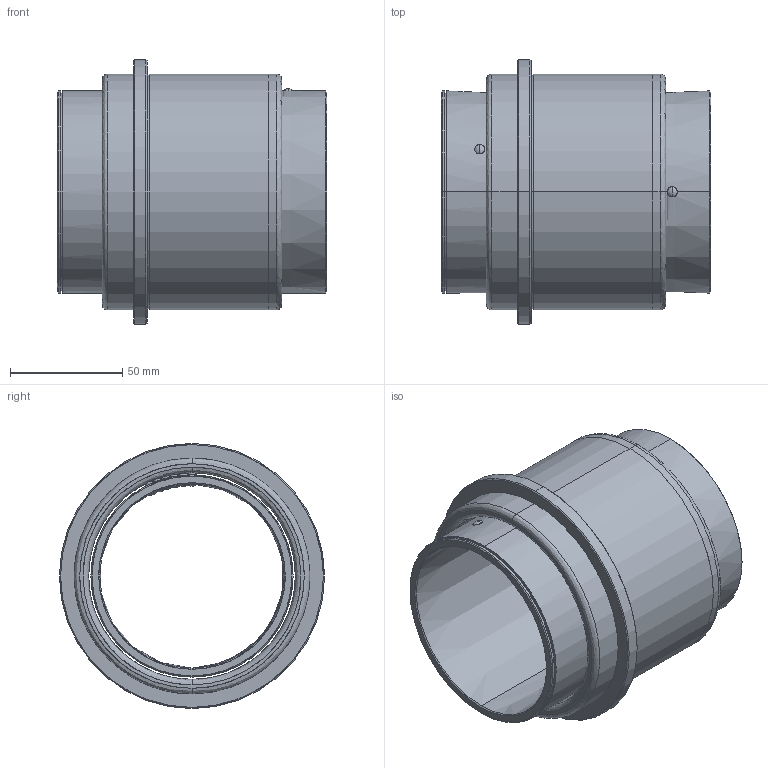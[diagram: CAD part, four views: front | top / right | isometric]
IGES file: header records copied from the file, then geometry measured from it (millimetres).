
Start section: START RECORD GO HERE.
Global section: file name: 732-80.igs; native system: DASSAULT SYSTEMES CATIA V5 R20 - www.3ds.com; preprocessor: CATIA Version 5 Release 20 ; author: Utente; organization: NB04-ASUS; date: 20210110.201426; units: millimetre
Bounding box: 120 x 118 x 118 mm (x, y, z)
Surface area: 124389.4 mm2 (no closed solid volume)
Topology: 0 solids, 0 shells, 74 faces, 488 edges, 488 vertices
Faces by surface type: revolution 64, plane 10
